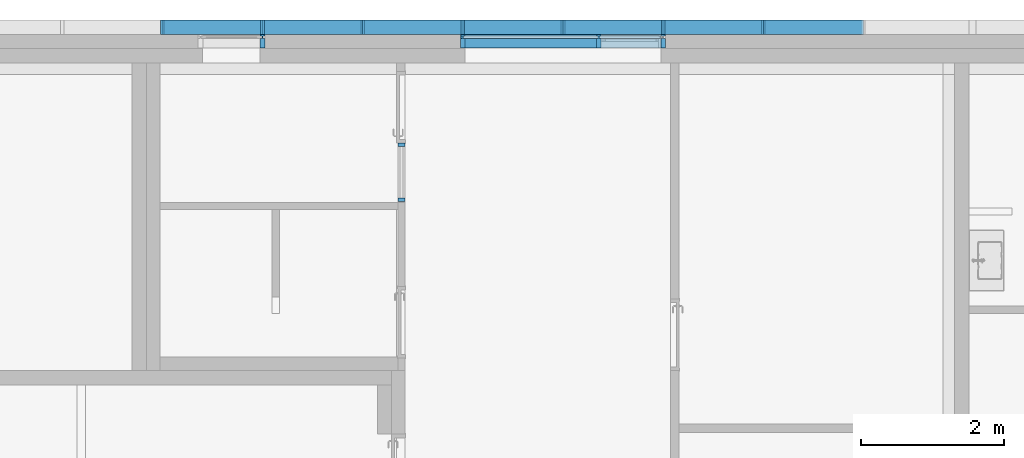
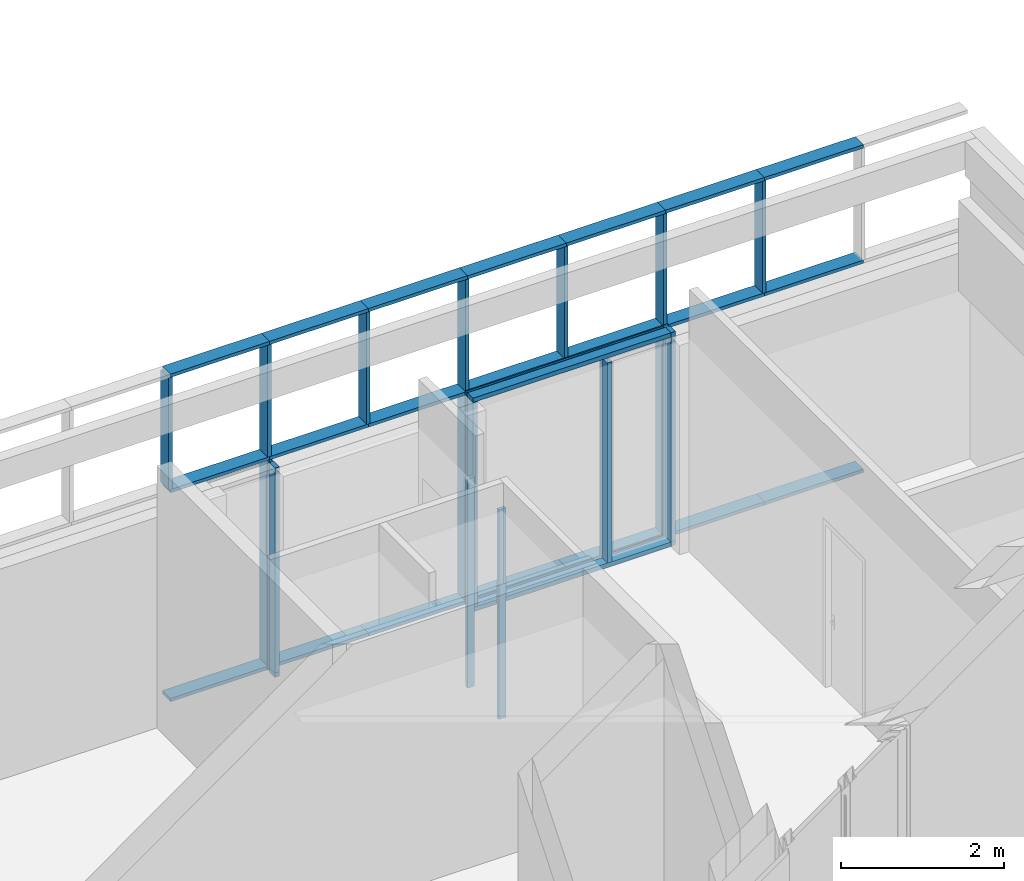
# One storey, part 13 of 240: 41 members, 4 elements without a shape of their own.
"""IFC2X3 building model written with IfcOpenShell, lengths in centimetres."""

from ifc_helpers import new_model, entity, si_unit, converted_unit, derived_unit, direction, frame, origin, origin_2d_with_axis, place, context, subcontext, project, spatial, polyline, rectangle, outline, extrude, source, transform, mapped, material, type_object, type_shapes, element, aggregate, save


model = new_model("IFC2X3")

# Units and contexts
model_context = context("Model", 3, precision=0.001, world=origin(), true_north=direction((6.12303176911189e-17, 1.0)))
body_context = subcontext(model_context, "Body", "Model", "MODEL_VIEW")
ifc_project = project(units=[si_unit("LENGTHUNIT", "METRE", prefix="CENTI"), si_unit("AREAUNIT", "SQUARE_METRE"), si_unit("VOLUMEUNIT", "CUBIC_METRE"), converted_unit("PLANEANGLEUNIT", "DEGREE", entity("IfcRatioMeasure", 0.0174532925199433), si_unit("PLANEANGLEUNIT", "RADIAN"), dimensions=[0, 0, 0, 0, 0, 0, 0]), si_unit("MASSUNIT", "GRAM", prefix="KILO"), derived_unit("MASSDENSITYUNIT", [(si_unit("MASSUNIT", "GRAM", prefix="KILO"), 1), (si_unit("LENGTHUNIT", "METRE"), -3)]), si_unit("TIMEUNIT", "SECOND"), si_unit("FREQUENCYUNIT", "HERTZ"), si_unit("THERMODYNAMICTEMPERATUREUNIT", "DEGREE_CELSIUS"), derived_unit("THERMALTRANSMITTANCEUNIT", [(si_unit("MASSUNIT", "GRAM", prefix="KILO"), 1), (si_unit("THERMODYNAMICTEMPERATUREUNIT", "KELVIN"), -1), (si_unit("TIMEUNIT", "SECOND"), -3)]), derived_unit("VOLUMETRICFLOWRATEUNIT", [(si_unit("LENGTHUNIT", "METRE"), 3), (si_unit("TIMEUNIT", "SECOND"), -1)]), si_unit("ELECTRICCURRENTUNIT", "AMPERE"), si_unit("ELECTRICVOLTAGEUNIT", "VOLT"), si_unit("POWERUNIT", "WATT"), si_unit("FORCEUNIT", "NEWTON", prefix="KILO"), si_unit("ILLUMINANCEUNIT", "LUX"), si_unit("LUMINOUSFLUXUNIT", "LUMEN"), si_unit("LUMINOUSINTENSITYUNIT", "CANDELA"), derived_unit("USERDEFINED", [(si_unit("MASSUNIT", "GRAM", prefix="KILO"), -1), (si_unit("LENGTHUNIT", "METRE"), -2), (si_unit("TIMEUNIT", "SECOND"), 3), (si_unit("LUMINOUSFLUXUNIT", "LUMEN"), 1)]), derived_unit("LINEARVELOCITYUNIT", [(si_unit("LENGTHUNIT", "METRE"), 1), (si_unit("TIMEUNIT", "SECOND"), -1)]), si_unit("PRESSUREUNIT", "PASCAL"), derived_unit("USERDEFINED", [(si_unit("LENGTHUNIT", "METRE"), -2), (si_unit("MASSUNIT", "GRAM", prefix="KILO"), 1), (si_unit("TIMEUNIT", "SECOND"), -2)])], contexts=[model_context])

# Site, building, storey
site_placement = place(None, frame((-2781.94577612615, 7442.24238424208, 0.0)))
site = spatial("IfcSite", under=ifc_project, at=site_placement, Name="Default", CompositionType="ELEMENT")
building_placement = place(site_placement, origin())
building = spatial("IfcBuilding", under=site, at=building_placement, CompositionType="ELEMENT")
storey_placement = place(building_placement, origin())
storey = spatial("IfcBuildingStorey", under=building, at=storey_placement, Name="N00 - COO", CompositionType="ELEMENT", Elevation=0.0)

# Curtain wall, members
curtain_wall_type_1 = type_object("IfcCurtainWallType", Name="Mur-rideau:07 - mur rideau trame 280 cm RDC maintenance", PredefinedType="NOTDEFINED")
curtain_wall_1_placement = place(building_placement, origin())
curtain_wall_1 = element("IfcCurtainWall", 1, at=curtain_wall_1_placement, inside=storey, type_object=curtain_wall_type_1, Name="Mur-rideau:07 - mur rideau trame 280 cm RDC maintenance", ObjectType="Mur-rideau:07 - mur rideau trame 280 cm RDC maintenance")
ifc_material_1 = material(Name="Aluminium")
member_type_1 = type_object("IfcMemberType", Name="150 x 25mm Détails", PredefinedType="MEMBER")
shared_shape_1 = source(origin(), body_context, "Body", "SweptSolid", [
    extrude(outline(polyline([(-13.3333333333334, -3.24999999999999), (0.166666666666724, -3.24999999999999), (0.166666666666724, -0.868749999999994), (3.66666666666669, -0.868749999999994), (3.66666666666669, -3.25), (5.6666666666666, -3.25), (5.6666666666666, 3.24999999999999), (3.66666666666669, 3.24999999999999), (3.66666666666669, 0.86874999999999), (0.166666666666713, 0.86874999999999), (0.166666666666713, 3.25000000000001), (-13.3333333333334, 3.25000000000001), (-13.3333333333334, -3.24999999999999)])), frame((-3.24999999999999, 1.96666666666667, -299.5), z_axis=(0.0, 0.0, 1.0), x_axis=(0.0, -1.0, 0.0)), (0.0, 0.0, 1.0), 299.5),
])
type_shapes(member_type_1, [shared_shape_1])
member_1_placement = place(building_placement, frame((-9830.24987766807, 26.2000000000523, 306.0), z_axis=(0.0, 0.0, 1.0), x_axis=(-1.0, 0.0, 0.0)))
member_1 = element("IfcMember", 2, at=member_1_placement, type_object=member_type_1, material=ifc_material_1, Name="Meneau rectangulaire:150 x 25mm Détails", ObjectType="Meneau rectangulaire:150 x 25mm Détails", context=body_context, shape_type="MappedRepresentation", body=[
    mapped(shared_shape_1, transform((0.0, 0.0, 0.0), scale=1.0)),
])
member_type_2 = type_object("IfcMemberType", Name="150 x 25mm Détails", PredefinedType="MEMBER")
shared_shape_2 = source(origin(), body_context, "Body", "SweptSolid", [
    extrude(outline(polyline([(-13.3333333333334, -3.25000000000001), (0.166666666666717, -3.25000000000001), (0.166666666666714, -0.86874999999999), (3.66666666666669, -0.86874999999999), (3.66666666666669, -3.24999999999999), (5.6666666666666, -3.24999999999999), (5.6666666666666, 3.25), (3.66666666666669, 3.25), (3.66666666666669, 0.868749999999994), (0.166666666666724, 0.868749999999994), (0.166666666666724, 3.25000000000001), (-13.3333333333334, 3.24999999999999), (-13.3333333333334, -3.25000000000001)])), frame((-3.24999999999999, 1.96666666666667, -299.5), z_axis=(0.0, 0.0, 1.0), x_axis=(0.0, -1.0, 0.0)), (0.0, 0.0, 1.0), 299.5),
])
type_shapes(member_type_2, [shared_shape_2])
member_2_placement = place(building_placement, frame((-9913.74987766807, 26.2000000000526, 6.5), z_axis=(0.0, 0.0, -1.0), x_axis=(1.0, 0.0, 0.0)))
member_2 = element("IfcMember", 3, at=member_2_placement, type_object=member_type_2, material=ifc_material_1, Name="Meneau rectangulaire:150 x 25mm Détails", ObjectType="Meneau rectangulaire:150 x 25mm Détails", context=body_context, shape_type="MappedRepresentation", body=[
    mapped(shared_shape_2, transform((0.0, 0.0, 0.0), scale=1.0)),
])
member_type_3 = type_object("IfcMemberType", Name="150 x 25mm Détails", PredefinedType="MEMBER")
shared_shape_3 = source(origin(), body_context, "Body", "SweptSolid", [
    extrude(outline(polyline([(-13.3333333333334, -3.24999999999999), (0.166666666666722, -3.24999999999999), (0.166666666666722, -0.868749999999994), (3.66666666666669, -0.868749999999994), (3.66666666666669, -3.25), (5.66666666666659, -3.25), (5.66666666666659, 3.24999999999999), (3.66666666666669, 3.24999999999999), (3.66666666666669, 0.86874999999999), (0.166666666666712, 0.86874999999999), (0.166666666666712, 3.25000000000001), (-13.3333333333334, 3.25000000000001), (-13.3333333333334, -3.24999999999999)])), frame((-3.24999999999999, 1.96666666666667, -280.0), z_axis=(0.0, 0.0, 1.0), x_axis=(0.0, -1.0, 0.0)), (0.0, 0.0, 1.0), 280.00000003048),
])
type_shapes(member_type_3, [shared_shape_3])
member_3_placement = place(building_placement, frame((-10110.2498776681, 26.2000000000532, 0.0), z_axis=(-1.0, 0.0, 0.0), x_axis=(0.0, 0.0, -1.0)))
member_3 = element("IfcMember", 4, at=member_3_placement, type_object=member_type_3, material=ifc_material_1, Name="Meneau rectangulaire:150 x 25mm Détails", ObjectType="Meneau rectangulaire:150 x 25mm Détails", context=body_context, shape_type="MappedRepresentation", body=[
    mapped(shared_shape_3, transform((0.0, 0.0, 0.0), scale=1.0)),
])

curtain_wall_type_2 = type_object("IfcCurtainWallType", Name="Mur-rideau:07 - mur rideau trame 90 cm", PredefinedType="NOTDEFINED")
curtain_wall_2_placement = place(storey_placement, origin())
curtain_wall_2 = element("IfcCurtainWall", 5, at=curtain_wall_2_placement, inside=storey, type_object=curtain_wall_type_2, Name="Mur-rideau:07 - mur rideau trame 90 cm", ObjectType="Mur-rideau:07 - mur rideau trame 90 cm")
member_type_4 = type_object("IfcMemberType", Name="150 x 25mm Détails", PredefinedType="MEMBER")
shared_shape_4 = source(origin(), body_context, "Body", "SweptSolid", [
    extrude(outline(polyline([(-13.3333333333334, -3.25000000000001), (0.166666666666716, -3.25000000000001), (0.166666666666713, -0.86874999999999), (3.66666666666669, -0.86874999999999), (3.66666666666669, -3.24999999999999), (5.66666666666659, -3.24999999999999), (5.66666666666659, 3.25), (3.66666666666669, 3.25), (3.66666666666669, 0.868749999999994), (0.166666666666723, 0.868749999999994), (0.166666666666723, 3.25000000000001), (-13.3333333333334, 3.24999999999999), (-13.3333333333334, -3.25000000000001)])), frame((-3.24999999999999, 1.96666666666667, -313.0), z_axis=(0.0, 0.0, 1.0), x_axis=(0.0, -1.0, 0.0)), (0.0, 0.0, 1.0), 313.0),
])
type_shapes(member_type_4, [shared_shape_4])
member_4_placement = place(storey_placement, frame((-10383.7498776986, 26.2000000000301, 0.0), z_axis=(0.0, 0.0, -1.0), x_axis=(1.0, 0.0, 0.0)))
member_4 = element("IfcMember", 6, at=member_4_placement, type_object=member_type_4, material=ifc_material_1, Name="Meneau rectangulaire:150 x 25mm Détails", ObjectType="Meneau rectangulaire:150 x 25mm Détails", context=body_context, shape_type="MappedRepresentation", body=[
    mapped(shared_shape_4, transform((0.0, 0.0, 0.0), scale=1.0)),
])
member_type_5 = type_object("IfcMemberType", Name="150 x 25mm Détails", PredefinedType="MEMBER")
shared_shape_5 = source(origin(), body_context, "Body", "SweptSolid", [
    extrude(outline(polyline([(-13.3333333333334, -3.25000000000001), (0.166666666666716, -3.25000000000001), (0.166666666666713, -0.86874999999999), (3.66666666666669, -0.86874999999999), (3.66666666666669, -3.24999999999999), (5.66666666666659, -3.24999999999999), (5.66666666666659, 3.25), (3.66666666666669, 3.25), (3.66666666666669, 0.868749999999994), (0.166666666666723, 0.868749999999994), (0.166666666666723, 3.25000000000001), (-13.3333333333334, 3.24999999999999), (-13.3333333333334, -3.25000000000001)])), frame((0.0, 1.96666666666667, -300.0), z_axis=(0.0, 0.0, 1.0), x_axis=(0.0, -1.0, 0.0)), (0.0, 0.0, 1.0), 300.000000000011),
])
type_shapes(member_type_5, [shared_shape_5])
member_5_placement = place(storey_placement, frame((-10386.9998776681, 26.2000000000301, 6.49999999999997), z_axis=(0.0, 0.0, -1.0), x_axis=(1.0, 0.0, 0.0)))
member_5 = element("IfcMember", 7, at=member_5_placement, type_object=member_type_5, material=ifc_material_1, Name="Meneau rectangulaire:150 x 25mm Détails", ObjectType="Meneau rectangulaire:150 x 25mm Détails", context=body_context, shape_type="MappedRepresentation", body=[
    mapped(shared_shape_5, transform((0.0, 0.0, 0.0), scale=1.0)),
])
aggregate(curtain_wall_2, [member_4, member_5])

# Member
member_type_6 = type_object("IfcMemberType", Name="150 x 25mm Détails", PredefinedType="MEMBER")
shared_shape_6 = source(origin(), body_context, "Body", "SweptSolid", [
    extrude(outline(polyline([(-13.3333333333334, -3.25000000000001), (0.166666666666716, -3.25000000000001), (0.166666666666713, -0.86874999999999), (3.66666666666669, -0.86874999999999), (3.66666666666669, -3.24999999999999), (5.66666666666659, -3.24999999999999), (5.66666666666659, 3.25), (3.66666666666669, 3.25), (3.66666666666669, 0.868749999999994), (0.166666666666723, 0.868749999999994), (0.166666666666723, 3.25000000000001), (-13.3333333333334, 3.24999999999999), (-13.3333333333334, -3.25000000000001)])), frame((-3.24999999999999, 1.96666666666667, -283.25000003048), z_axis=(0.0, 0.0, 1.0), x_axis=(0.0, -1.0, 0.0)), (0.0, 0.0, 1.0), 283.25000003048),
])
type_shapes(member_type_6, [shared_shape_6])
member_6_placement = place(building_placement, frame((-9826.99987763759, 26.2000000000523, 319.61455664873), z_axis=(1.0, 0.0, 0.0), x_axis=(0.0, 0.0, 1.0)))
member_6 = element("IfcMember", 8, at=member_6_placement, type_object=member_type_6, material=ifc_material_1, Name="Meneau rectangulaire:150 x 25mm Détails", ObjectType="Meneau rectangulaire:150 x 25mm Détails", context=body_context, shape_type="MappedRepresentation", body=[
    mapped(shared_shape_6, transform((0.0, 0.0, 0.0), scale=1.0)),
])

member_type_7 = type_object("IfcMemberType", Name="150 x 25mm Détails", PredefinedType="MEMBER")
shared_shape_7 = source(origin(), body_context, "Body", "SweptSolid", [
    extrude(outline(polyline([(-13.3333333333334, -3.25000000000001), (0.166666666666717, -3.25000000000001), (0.166666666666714, -0.86874999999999), (3.66666666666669, -0.86874999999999), (3.66666666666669, -3.24999999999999), (5.6666666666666, -3.24999999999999), (5.6666666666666, 3.25), (3.66666666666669, 3.25), (3.66666666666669, 0.868749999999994), (0.166666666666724, 0.868749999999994), (0.166666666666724, 3.25000000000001), (-13.3333333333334, 3.24999999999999), (-13.3333333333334, -3.25000000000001)])), frame((-3.24999999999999, 1.96666666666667, -319.61455664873), z_axis=(0.0, 0.0, 1.0), x_axis=(0.0, -1.0, 0.0)), (0.0, 0.0, 1.0), 319.61455664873),
])
type_shapes(member_type_7, [shared_shape_7])
member_7_placement = place(building_placement, frame((-9823.74987766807, 26.2000000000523, 0.0), z_axis=(0.0, 0.0, -1.0), x_axis=(1.0, 0.0, 0.0)))
member_7 = element("IfcMember", 9, at=member_7_placement, type_object=member_type_7, material=ifc_material_1, Name="Meneau rectangulaire:150 x 25mm Détails", ObjectType="Meneau rectangulaire:150 x 25mm Détails", context=body_context, shape_type="MappedRepresentation", body=[
    mapped(shared_shape_7, transform((0.0, 0.0, 0.0), scale=1.0)),
])

member_type_8 = type_object("IfcMemberType", Name="150 x 25mm Détails", PredefinedType="MEMBER")
shared_shape_8 = source(origin(), body_context, "Body", "SweptSolid", [
    extrude(outline(polyline([(-13.3333333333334, -3.24999999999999), (0.166666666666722, -3.24999999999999), (0.166666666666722, -0.868749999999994), (3.66666666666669, -0.868749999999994), (3.66666666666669, -3.25), (5.66666666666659, -3.25), (5.66666666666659, 3.24999999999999), (3.66666666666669, 3.24999999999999), (3.66666666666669, 0.86874999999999), (0.166666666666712, 0.86874999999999), (0.166666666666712, 3.25000000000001), (-13.3333333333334, 3.25000000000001), (-13.3333333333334, -3.24999999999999)])), frame((-3.24999999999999, 1.96666666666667, -306.61455664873), z_axis=(0.0, 0.0, 1.0), x_axis=(0.0, -1.0, 0.0)), (0.0, 0.0, 1.0), 306.61455664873),
])
type_shapes(member_type_8, [shared_shape_8])
member_8_placement = place(building_placement, frame((-10110.2498776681, 26.2000000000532, 313.11455664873), z_axis=(0.0, 0.0, 1.0), x_axis=(-1.0, 0.0, 0.0)))
member_8 = element("IfcMember", 10, at=member_8_placement, type_object=member_type_8, material=ifc_material_1, Name="Meneau rectangulaire:150 x 25mm Détails", ObjectType="Meneau rectangulaire:150 x 25mm Détails", context=body_context, shape_type="MappedRepresentation", body=[
    mapped(shared_shape_8, transform((0.0, 0.0, 0.0), scale=1.0)),
])

aggregate(curtain_wall_1, [member_3, member_7, member_8, member_1, member_2, member_6])

# Curtain wall, members
curtain_wall_type_3 = type_object("IfcCurtainWallType", Name="Mur-rideau:Epines - 200x50mm", PredefinedType="NOTDEFINED")
curtain_wall_3_placement = place(building_placement, origin())
curtain_wall_3 = element("IfcCurtainWall", 11, at=curtain_wall_3_placement, inside=storey, type_object=curtain_wall_type_3, Name="Mur-rideau:Epines - 200x50mm", ObjectType="Mur-rideau:Epines - 200x50mm")
member_type_9 = type_object("IfcMemberType", Name="200x50 mm", PredefinedType="MEMBER")
shared_shape_9 = source(origin(), body_context, "Body", "SweptSolid", [
    extrude(rectangle(XDim=20.0, YDim=5.0, at=origin_2d_with_axis()), frame((0.0, 0.0, -307.5), z_axis=(0.0, 0.0, 1.0), x_axis=(0.0, -1.0, 0.0)), (0.0, 0.0, 1.0), 307.5),
])
type_shapes(member_type_9, [shared_shape_9])
member_9_placement = place(building_placement, frame((-9826.99987766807, 40.0, 5.0), z_axis=(0.0, 0.0, -1.0), x_axis=(1.0, 0.0, 0.0)))
member_9 = element("IfcMember", 12, at=member_9_placement, type_object=member_type_9, material=ifc_material_1, Name="Meneau rectangulaire:200x50 mm", ObjectType="Meneau rectangulaire:200x50 mm", context=body_context, shape_type="MappedRepresentation", body=[
    mapped(shared_shape_9, transform((0.0, 0.0, 0.0), scale=1.0)),
])
member_10_placement = place(building_placement, frame((-10106.9998776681, 40.0, 5.0), z_axis=(0.0, 0.0, -1.0), x_axis=(1.0, 0.0, 0.0)))
member_10 = element("IfcMember", 13, at=member_10_placement, type_object=member_type_9, material=ifc_material_1, Name="Meneau rectangulaire:200x50 mm", ObjectType="Meneau rectangulaire:200x50 mm", context=body_context, shape_type="MappedRepresentation", body=[
    mapped(shared_shape_9, transform((0.0, 0.0, 0.0), scale=1.0)),
])
member_11_placement = place(building_placement, frame((-10386.9998776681, 40.0, 5.0), z_axis=(0.0, 0.0, -1.0), x_axis=(1.0, 0.0, 0.0)))
member_11 = element("IfcMember", 14, at=member_11_placement, type_object=member_type_9, material=ifc_material_1, Name="Meneau rectangulaire:200x50 mm", ObjectType="Meneau rectangulaire:200x50 mm", context=body_context, shape_type="MappedRepresentation", body=[
    mapped(shared_shape_9, transform((0.0, 0.0, 0.0), scale=1.0)),
])
member_type_10 = type_object("IfcMemberType", Name="200x50 mm", PredefinedType="MEMBER")
shared_shape_10 = source(origin(), body_context, "Body", "SweptSolid", [
    extrude(rectangle(XDim=20.0, YDim=5.0, at=origin_2d_with_axis()), frame((-2.5, 0.0, -140.0), z_axis=(0.0, 0.0, 1.0), x_axis=(0.0, -1.0, 0.0)), (0.0, 0.0, 1.0), 139.999999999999),
])
type_shapes(member_type_10, [shared_shape_10])
member_12_placement = place(building_placement, frame((-9826.99987766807, 40.0, 0.0), z_axis=(-1.0, 0.0, 0.0), x_axis=(0.0, 0.0, -1.0)))
member_12 = element("IfcMember", 15, at=member_12_placement, type_object=member_type_10, material=ifc_material_1, Name="Meneau rectangulaire:200x50 mm", ObjectType="Meneau rectangulaire:200x50 mm", context=body_context, shape_type="MappedRepresentation", body=[
    mapped(shared_shape_10, transform((0.0, 0.0, 0.0), scale=1.0)),
])
member_13_placement = place(building_placement, frame((-10106.9998776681, 40.0, 0.0), z_axis=(-1.0, 0.0, 0.0), x_axis=(0.0, 0.0, -1.0)))
member_13 = element("IfcMember", 16, at=member_13_placement, type_object=member_type_10, material=ifc_material_1, Name="Meneau rectangulaire:200x50 mm", ObjectType="Meneau rectangulaire:200x50 mm", context=body_context, shape_type="MappedRepresentation", body=[
    mapped(shared_shape_10, transform((0.0, 0.0, 0.0), scale=1.0)),
])
member_14_placement = place(building_placement, frame((-10386.9998776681, 40.0, 0.0), z_axis=(-1.0, 0.0, 0.0), x_axis=(0.0, 0.0, -1.0)))
member_14 = element("IfcMember", 17, at=member_14_placement, type_object=member_type_10, material=ifc_material_1, Name="Meneau rectangulaire:200x50 mm", ObjectType="Meneau rectangulaire:200x50 mm", context=body_context, shape_type="MappedRepresentation", body=[
    mapped(shared_shape_10, transform((0.0, 0.0, 0.0), scale=1.0)),
])
member_type_11 = type_object("IfcMemberType", Name="200x50 mm", PredefinedType="MEMBER")
shared_shape_11 = source(origin(), body_context, "Body", "SweptSolid", [
    extrude(rectangle(XDim=20.0, YDim=5.0, at=origin_2d_with_axis()), frame((0.0, 0.0, -140.0), z_axis=(0.0, 0.0, 1.0), x_axis=(0.0, -1.0, 0.0)), (0.0, 0.0, 1.0), 139.999999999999),
])
type_shapes(member_type_11, [shared_shape_11])
member_15_placement = place(building_placement, frame((-9686.99987766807, 40.0, 315.0), z_axis=(1.0, 0.0, 0.0), x_axis=(0.0, 0.0, 1.0)))
member_15 = element("IfcMember", 18, at=member_15_placement, type_object=member_type_11, material=ifc_material_1, Name="Meneau rectangulaire:200x50 mm", ObjectType="Meneau rectangulaire:200x50 mm", context=body_context, shape_type="MappedRepresentation", body=[
    mapped(shared_shape_11, transform((0.0, 0.0, 0.0), scale=1.0)),
])
member_16_placement = place(building_placement, frame((-9966.99987766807, 40.0, 315.0), z_axis=(1.0, 0.0, 0.0), x_axis=(0.0, 0.0, 1.0)))
member_16 = element("IfcMember", 19, at=member_16_placement, type_object=member_type_11, material=ifc_material_1, Name="Meneau rectangulaire:200x50 mm", ObjectType="Meneau rectangulaire:200x50 mm", context=body_context, shape_type="MappedRepresentation", body=[
    mapped(shared_shape_11, transform((0.0, 0.0, 0.0), scale=1.0)),
])
member_17_placement = place(building_placement, frame((-10246.9998776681, 40.0, 315.0), z_axis=(1.0, 0.0, 0.0), x_axis=(0.0, 0.0, 1.0)))
member_17 = element("IfcMember", 20, at=member_17_placement, type_object=member_type_11, material=ifc_material_1, Name="Meneau rectangulaire:200x50 mm", ObjectType="Meneau rectangulaire:200x50 mm", context=body_context, shape_type="MappedRepresentation", body=[
    mapped(shared_shape_11, transform((0.0, 0.0, 0.0), scale=1.0)),
])
member_18_placement = place(building_placement, frame((-9546.99987766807, 40.0, 315.0), z_axis=(1.0, 0.0, 0.0), x_axis=(0.0, 0.0, 1.0)))
member_18 = element("IfcMember", 21, at=member_18_placement, type_object=member_type_11, material=ifc_material_1, Name="Meneau rectangulaire:200x50 mm", ObjectType="Meneau rectangulaire:200x50 mm", context=body_context, shape_type="MappedRepresentation", body=[
    mapped(shared_shape_11, transform((0.0, 0.0, 0.0), scale=1.0)),
])
member_19_placement = place(building_placement, frame((-9826.99987766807, 40.0, 315.0), z_axis=(1.0, 0.0, 0.0), x_axis=(0.0, 0.0, 1.0)))
member_19 = element("IfcMember", 22, at=member_19_placement, type_object=member_type_11, material=ifc_material_1, Name="Meneau rectangulaire:200x50 mm", ObjectType="Meneau rectangulaire:200x50 mm", context=body_context, shape_type="MappedRepresentation", body=[
    mapped(shared_shape_11, transform((0.0, 0.0, 0.0), scale=1.0)),
])
member_20_placement = place(building_placement, frame((-10106.9998776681, 40.0, 315.0), z_axis=(1.0, 0.0, 0.0), x_axis=(0.0, 0.0, 1.0)))
member_20 = element("IfcMember", 23, at=member_20_placement, type_object=member_type_11, material=ifc_material_1, Name="Meneau rectangulaire:200x50 mm", ObjectType="Meneau rectangulaire:200x50 mm", context=body_context, shape_type="MappedRepresentation", body=[
    mapped(shared_shape_11, transform((0.0, 0.0, 0.0), scale=1.0)),
])
member_21_placement = place(building_placement, frame((-10386.9998776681, 40.0, 315.0), z_axis=(1.0, 0.0, 0.0), x_axis=(0.0, 0.0, 1.0)))
member_21 = element("IfcMember", 24, at=member_21_placement, type_object=member_type_11, material=ifc_material_1, Name="Meneau rectangulaire:200x50 mm", ObjectType="Meneau rectangulaire:200x50 mm", context=body_context, shape_type="MappedRepresentation", body=[
    mapped(shared_shape_11, transform((0.0, 0.0, 0.0), scale=1.0)),
])
member_type_12 = type_object("IfcMemberType", Name="200x50 mm", PredefinedType="MEMBER")
shared_shape_12 = source(origin(), body_context, "Body", "SweptSolid", [
    extrude(rectangle(XDim=20.0, YDim=5.0, at=origin_2d_with_axis()), frame((-2.5, 0.0, -140.0), z_axis=(0.0, 0.0, 1.0), x_axis=(0.0, -1.0, 0.0)), (0.0, 0.0, 1.0), 140.000000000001),
])
type_shapes(member_type_12, [shared_shape_12])
member_22_placement = place(building_placement, frame((-10106.9998776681, 40.0, 490.0), z_axis=(1.0, 0.0, 0.0), x_axis=(0.0, 0.0, 1.0)))
member_22 = element("IfcMember", 25, at=member_22_placement, type_object=member_type_12, material=ifc_material_1, Name="Meneau rectangulaire:200x50 mm", ObjectType="Meneau rectangulaire:200x50 mm", context=body_context, shape_type="MappedRepresentation", body=[
    mapped(shared_shape_12, transform((0.0, 0.0, 0.0), scale=1.0)),
])
member_23_placement = place(building_placement, frame((-10386.9998776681, 40.0, 490.0), z_axis=(1.0, 0.0, 0.0), x_axis=(0.0, 0.0, 1.0)))
member_23 = element("IfcMember", 26, at=member_23_placement, type_object=member_type_12, material=ifc_material_1, Name="Meneau rectangulaire:200x50 mm", ObjectType="Meneau rectangulaire:200x50 mm", context=body_context, shape_type="MappedRepresentation", body=[
    mapped(shared_shape_12, transform((0.0, 0.0, 0.0), scale=1.0)),
])
member_24_placement = place(building_placement, frame((-9966.99987766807, 40.0, 490.0), z_axis=(1.0, 0.0, 0.0), x_axis=(0.0, 0.0, 1.0)))
member_24 = element("IfcMember", 27, at=member_24_placement, type_object=member_type_12, material=ifc_material_1, Name="Meneau rectangulaire:200x50 mm", ObjectType="Meneau rectangulaire:200x50 mm", context=body_context, shape_type="MappedRepresentation", body=[
    mapped(shared_shape_12, transform((0.0, 0.0, 0.0), scale=1.0)),
])
member_25_placement = place(building_placement, frame((-10246.9998776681, 40.0, 490.0), z_axis=(1.0, 0.0, 0.0), x_axis=(0.0, 0.0, 1.0)))
member_25 = element("IfcMember", 28, at=member_25_placement, type_object=member_type_12, material=ifc_material_1, Name="Meneau rectangulaire:200x50 mm", ObjectType="Meneau rectangulaire:200x50 mm", context=body_context, shape_type="MappedRepresentation", body=[
    mapped(shared_shape_12, transform((0.0, 0.0, 0.0), scale=1.0)),
])
member_26_placement = place(building_placement, frame((-9826.99987766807, 40.0, 490.0), z_axis=(1.0, 0.0, 0.0), x_axis=(0.0, 0.0, 1.0)))
member_26 = element("IfcMember", 29, at=member_26_placement, type_object=member_type_12, material=ifc_material_1, Name="Meneau rectangulaire:200x50 mm", ObjectType="Meneau rectangulaire:200x50 mm", context=body_context, shape_type="MappedRepresentation", body=[
    mapped(shared_shape_12, transform((0.0, 0.0, 0.0), scale=1.0)),
])
member_27_placement = place(building_placement, frame((-9686.99987766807, 40.0, 490.0), z_axis=(1.0, 0.0, 0.0), x_axis=(0.0, 0.0, 1.0)))
member_27 = element("IfcMember", 30, at=member_27_placement, type_object=member_type_12, material=ifc_material_1, Name="Meneau rectangulaire:200x50 mm", ObjectType="Meneau rectangulaire:200x50 mm", context=body_context, shape_type="MappedRepresentation", body=[
    mapped(shared_shape_12, transform((0.0, 0.0, 0.0), scale=1.0)),
])
member_28_placement = place(building_placement, frame((-9546.99987766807, 40.0, 490.0), z_axis=(1.0, 0.0, 0.0), x_axis=(0.0, 0.0, 1.0)))
member_28 = element("IfcMember", 31, at=member_28_placement, type_object=member_type_12, material=ifc_material_1, Name="Meneau rectangulaire:200x50 mm", ObjectType="Meneau rectangulaire:200x50 mm", context=body_context, shape_type="MappedRepresentation", body=[
    mapped(shared_shape_12, transform((0.0, 0.0, 0.0), scale=1.0)),
])
member_type_13 = type_object("IfcMemberType", Name="200x50 mm", PredefinedType="MEMBER")
shared_shape_13 = source(origin(), body_context, "Body", "SweptSolid", [
    extrude(rectangle(XDim=20.0, YDim=5.0, at=origin_2d_with_axis()), frame((0.0, 0.0, -167.499999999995), z_axis=(0.0, 0.0, 1.0), x_axis=(0.0, -1.0, 0.0)), (0.0, 0.0, 1.0), 167.499999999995),
])
type_shapes(member_type_13, [shared_shape_13])
member_29_placement = place(building_placement, frame((-9826.99987766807, 40.0, 317.5), z_axis=(0.0, 0.0, -1.0), x_axis=(1.0, 0.0, 0.0)))
member_29 = element("IfcMember", 32, at=member_29_placement, type_object=member_type_13, material=ifc_material_1, Name="Meneau rectangulaire:200x50 mm", ObjectType="Meneau rectangulaire:200x50 mm", context=body_context, shape_type="MappedRepresentation", body=[
    mapped(shared_shape_13, transform((0.0, 0.0, 0.0), scale=1.0)),
])
member_30_placement = place(building_placement, frame((-10106.9998776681, 40.0, 317.5), z_axis=(0.0, 0.0, -1.0), x_axis=(1.0, 0.0, 0.0)))
member_30 = element("IfcMember", 33, at=member_30_placement, type_object=member_type_13, material=ifc_material_1, Name="Meneau rectangulaire:200x50 mm", ObjectType="Meneau rectangulaire:200x50 mm", context=body_context, shape_type="MappedRepresentation", body=[
    mapped(shared_shape_13, transform((0.0, 0.0, 0.0), scale=1.0)),
])
member_31_placement = place(building_placement, frame((-10386.9998776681, 40.0, 317.5), z_axis=(0.0, 0.0, -1.0), x_axis=(1.0, 0.0, 0.0)))
member_31 = element("IfcMember", 34, at=member_31_placement, type_object=member_type_13, material=ifc_material_1, Name="Meneau rectangulaire:200x50 mm", ObjectType="Meneau rectangulaire:200x50 mm", context=body_context, shape_type="MappedRepresentation", body=[
    mapped(shared_shape_13, transform((0.0, 0.0, 0.0), scale=1.0)),
])
member_32_placement = place(building_placement, frame((-10526.9998776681, 40.0, 317.5), z_axis=(0.0, 0.0, -1.0), x_axis=(1.0, 0.0, 0.0)))
member_32 = element("IfcMember", 35, at=member_32_placement, type_object=member_type_13, material=ifc_material_1, Name="Meneau rectangulaire:200x50 mm", ObjectType="Meneau rectangulaire:200x50 mm", context=body_context, shape_type="MappedRepresentation", body=[
    mapped(shared_shape_13, transform((0.0, 0.0, 0.0), scale=1.0)),
])
member_33_placement = place(building_placement, frame((-10246.9998776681, 40.0, 317.5), z_axis=(0.0, 0.0, -1.0), x_axis=(1.0, 0.0, 0.0)))
member_33 = element("IfcMember", 36, at=member_33_placement, type_object=member_type_13, material=ifc_material_1, Name="Meneau rectangulaire:200x50 mm", ObjectType="Meneau rectangulaire:200x50 mm", context=body_context, shape_type="MappedRepresentation", body=[
    mapped(shared_shape_13, transform((0.0, 0.0, 0.0), scale=1.0)),
])
member_34_placement = place(building_placement, frame((-9966.99987766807, 40.0, 317.5), z_axis=(0.0, 0.0, -1.0), x_axis=(1.0, 0.0, 0.0)))
member_34 = element("IfcMember", 37, at=member_34_placement, type_object=member_type_13, material=ifc_material_1, Name="Meneau rectangulaire:200x50 mm", ObjectType="Meneau rectangulaire:200x50 mm", context=body_context, shape_type="MappedRepresentation", body=[
    mapped(shared_shape_13, transform((0.0, 0.0, 0.0), scale=1.0)),
])
member_35_placement = place(building_placement, frame((-9686.99987766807, 40.0, 317.5), z_axis=(0.0, 0.0, -1.0), x_axis=(1.0, 0.0, 0.0)))
member_35 = element("IfcMember", 38, at=member_35_placement, type_object=member_type_13, material=ifc_material_1, Name="Meneau rectangulaire:200x50 mm", ObjectType="Meneau rectangulaire:200x50 mm", context=body_context, shape_type="MappedRepresentation", body=[
    mapped(shared_shape_13, transform((0.0, 0.0, 0.0), scale=1.0)),
])
member_type_14 = type_object("IfcMemberType", Name="200x50 mm", PredefinedType="MEMBER")
shared_shape_14 = source(origin(), body_context, "Body", "SweptSolid", [
    extrude(rectangle(XDim=20.0, YDim=5.0, at=origin_2d_with_axis()), frame((-2.5, 0.0, -140.0), z_axis=(0.0, 0.0, 1.0), x_axis=(0.0, -1.0, 0.0)), (0.0, 0.0, 1.0), 140.000000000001),
])
type_shapes(member_type_14, [shared_shape_14])
member_36_placement = place(building_placement, frame((-9686.99987766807, 40.0, 0.0), z_axis=(-1.0, 0.0, 0.0), x_axis=(0.0, 0.0, -1.0)))
member_36 = element("IfcMember", 39, at=member_36_placement, type_object=member_type_14, material=ifc_material_1, Name="Meneau rectangulaire:200x50 mm", ObjectType="Meneau rectangulaire:200x50 mm", context=body_context, shape_type="MappedRepresentation", body=[
    mapped(shared_shape_14, transform((0.0, 0.0, 0.0), scale=1.0)),
])
member_37_placement = place(building_placement, frame((-9966.99987766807, 40.0, 0.0), z_axis=(-1.0, 0.0, 0.0), x_axis=(0.0, 0.0, -1.0)))
member_37 = element("IfcMember", 40, at=member_37_placement, type_object=member_type_14, material=ifc_material_1, Name="Meneau rectangulaire:200x50 mm", ObjectType="Meneau rectangulaire:200x50 mm", context=body_context, shape_type="MappedRepresentation", body=[
    mapped(shared_shape_14, transform((0.0, 0.0, 0.0), scale=1.0)),
])
member_38_placement = place(building_placement, frame((-10246.9998776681, 40.0, 0.0), z_axis=(-1.0, 0.0, 0.0), x_axis=(0.0, 0.0, -1.0)))
member_38 = element("IfcMember", 41, at=member_38_placement, type_object=member_type_14, material=ifc_material_1, Name="Meneau rectangulaire:200x50 mm", ObjectType="Meneau rectangulaire:200x50 mm", context=body_context, shape_type="MappedRepresentation", body=[
    mapped(shared_shape_14, transform((0.0, 0.0, 0.0), scale=1.0)),
])
member_39_placement = place(building_placement, frame((-10526.9998776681, 40.0, 0.0), z_axis=(-1.0, 0.0, 0.0), x_axis=(0.0, 0.0, -1.0)))
member_39 = element("IfcMember", 42, at=member_39_placement, type_object=member_type_14, material=ifc_material_1, Name="Meneau rectangulaire:200x50 mm", ObjectType="Meneau rectangulaire:200x50 mm", context=body_context, shape_type="MappedRepresentation", body=[
    mapped(shared_shape_14, transform((0.0, 0.0, 0.0), scale=1.0)),
])
aggregate(curtain_wall_3, [member_12, member_15, member_13, member_16, member_22, member_14, member_17, member_23, member_9, member_10, member_11, member_29, member_30, member_31, member_36, member_18, member_24, member_37, member_19, member_25, member_38, member_20, member_39, member_21, member_32, member_33, member_34, member_26, member_27, member_28, member_35])

curtain_wall_type_4 = type_object("IfcCurtainWallType", Name="Mur-rideau:07 - mur rideau vitrage sans recoupement 10cm", PredefinedType="NOTDEFINED")
curtain_wall_4_placement = place(building_placement, origin())
curtain_wall_4 = element("IfcCurtainWall", 43, at=curtain_wall_4_placement, inside=storey, type_object=curtain_wall_type_4, Name="Mur-rideau:07 - mur rideau vitrage sans recoupement 10cm", ObjectType="Mur-rideau:07 - mur rideau vitrage sans recoupement 10cm")
ifc_material_2 = material(Name="Plastique, blanc opaque")
member_type_15 = type_object("IfcMemberType", Name="100 x 50mm", PredefinedType="MEMBER")
shared_shape_15 = source(origin(), body_context, "Body", "SweptSolid", [
    extrude(rectangle(XDim=10.0, YDim=5.0, at=origin_2d_with_axis()), frame((-2.5, 0.0, -313.0), z_axis=(0.0, 0.0, 1.0), x_axis=(0.0, -1.0, 0.0)), (0.0, 0.0, 1.0), 313.0),
])
type_shapes(member_type_15, [shared_shape_15])
member_40_placement = place(building_placement, frame((-10192.4998776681, -204.0, 0.0), z_axis=(0.0, 0.0, -1.0), x_axis=(0.0, -1.0, 0.0)))
member_40 = element("IfcMember", 44, at=member_40_placement, type_object=member_type_15, material=ifc_material_2, Name="Meneau rectangulaire:100 x 50mm", ObjectType="Meneau rectangulaire:100 x 50mm", context=body_context, shape_type="MappedRepresentation", body=[
    mapped(shared_shape_15, transform((0.0, 0.0, 0.0), scale=1.0)),
])
member_type_16 = type_object("IfcMemberType", Name="100 x 50mm", PredefinedType="MEMBER")
shared_shape_16 = source(origin(), body_context, "Body", "SweptSolid", [
    extrude(rectangle(XDim=10.0, YDim=5.0, at=origin_2d_with_axis()), frame((-2.5, 0.0, -313.0), z_axis=(0.0, 0.0, 1.0), x_axis=(0.0, -1.0, 0.0)), (0.0, 0.0, 1.0), 313.0),
])
type_shapes(member_type_16, [shared_shape_16])
member_41_placement = place(building_placement, frame((-10192.4998776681, -122.0, 313.0), z_axis=(0.0, 0.0, 1.0), x_axis=(0.0, 1.0, 0.0)))
member_41 = element("IfcMember", 45, at=member_41_placement, type_object=member_type_16, material=ifc_material_2, Name="Meneau rectangulaire:100 x 50mm", ObjectType="Meneau rectangulaire:100 x 50mm", context=body_context, shape_type="MappedRepresentation", body=[
    mapped(shared_shape_16, transform((0.0, 0.0, 0.0), scale=1.0)),
])
aggregate(curtain_wall_4, [member_40, member_41])

save(model, "model.ifc")
